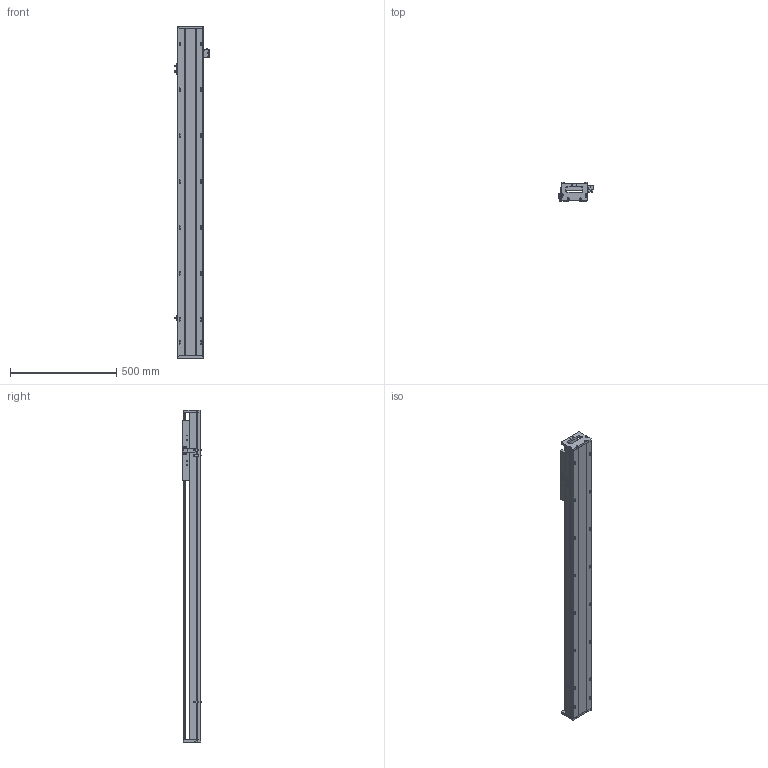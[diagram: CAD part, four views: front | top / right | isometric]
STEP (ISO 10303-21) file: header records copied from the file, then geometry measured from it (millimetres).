
FILE_DESCRIPTION (( 'STEP AP203' ), '1' );
FILE_NAME ('SKR12S-C2-S1180（简）.STEP', '2022-09-26T05:18:51', ( '' ), ( '' ), 'SwSTEP 2.0', 'SolidWorks 2018', '' );
FILE_SCHEMA (( 'CONFIG_CONTROL_DESIGN' ));
Length unit declared in the file: millimetre
Products named in the file (8): 覜茼え; SKR12菁釱-C2-S1180(潠); SKR12耜啣; SIKO棠掑; SKR12滑台-280L（简）; 棠掑假蚾輸; SKR12S-C2-S1180（简）; EE-SX672
Assembly tree (10 placements, depth 2):
  SKR12S-C2-S1180（简）
    SKR12菁釱-C2-S1180(潠)
    SKR12滑台-280L（简）
    SKR12耜啣  x2
    棠掑假蚾輸
    SIKO棠掑
    EE-SX672  x3
    覜茼え
Bounding box: 162.7 x 87.3 x 1560 mm (x, y, z)
Volume: 7139484.8 mm3; surface area: 1135085.9 mm2
Topology: 11 solids, 11 shells, 1036 faces, 2763 edges, 1745 vertices
Faces by surface type: cylinder 486, plane 408, cone 142
Entity records: 28621 total; most frequent: CARTESIAN_POINT 5931, DIRECTION 4687, ORIENTED_EDGE 4474, EDGE_CURVE 2237, AXIS2_PLACEMENT_3D 1741, VERTEX_POINT 1449, VECTOR 1205, LINE 1205
